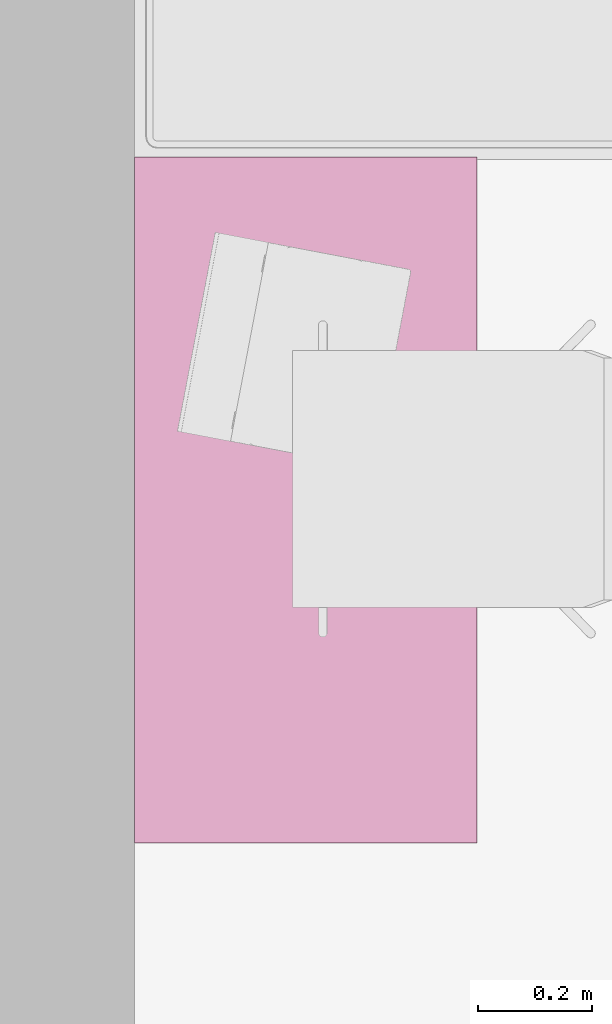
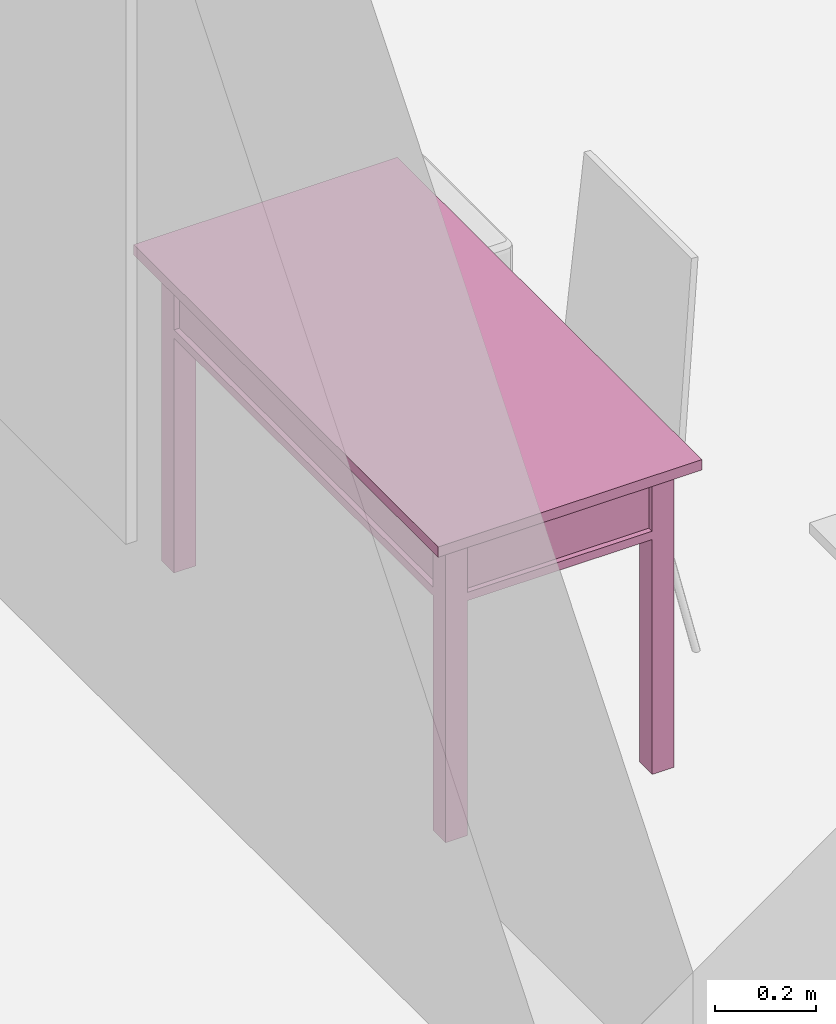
# One storey, part 112 of 165: 1 furnishing.
"""IFC2X3 building model written with IfcOpenShell, lengths in millimetres."""

from ifc_helpers import new_model, entity, si_unit, converted_unit, money_unit, direction, frame, origin_with_axes, place, context, subcontext, project, spatial, faceted_brep, source, transform, mapped, material, material_list, type_object, element, save


model = new_model("IFC2X3")

# Units and contexts
model_context = context("Model", 3, precision=1e-05, world=origin_with_axes(), true_north=direction((0.0, 1.0)))
body_context = subcontext(model_context, "Body", "Model", "MODEL_VIEW")
ifc_project = project(units=[si_unit("LENGTHUNIT", "METRE", prefix="MILLI"), si_unit("AREAUNIT", "SQUARE_METRE"), si_unit("VOLUMEUNIT", "CUBIC_METRE"), converted_unit("PLANEANGLEUNIT", "DEGREE", entity("IfcPlaneAngleMeasure", 0.0174532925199), si_unit("PLANEANGLEUNIT", "RADIAN"), dimensions=[0, 0, 0, 0, 0, 0, 0]), si_unit("SOLIDANGLEUNIT", "STERADIAN"), money_unit("USD"), converted_unit("TIMEUNIT", "Year", entity("IfcTimeMeasure", 31556926.0), si_unit("TIMEUNIT", "SECOND"), dimensions=[0, 0, 0, 0, 0, 0, 0]), si_unit("MASSUNIT", "GRAM"), si_unit("THERMODYNAMICTEMPERATUREUNIT", "DEGREE_CELSIUS"), si_unit("LUMINOUSINTENSITYUNIT", "LUMEN")], contexts=[model_context])

# Site, building, storey
site_placement = place(None, origin_with_axes())
site = spatial("IfcSite", under=ifc_project, at=site_placement, Name="Site", CompositionType="ELEMENT")
building_placement = place(site_placement, origin_with_axes())
building = spatial("IfcBuilding", under=site, at=building_placement, Name="Building", CompositionType="ELEMENT")
storey_placement = place(building_placement, frame((0.0, 0.0, 6300.0), z_axis=(0.0, 0.0, 1.0), x_axis=(1.0, 0.0, 0.0)))
storey = spatial("IfcBuildingStorey", under=building, at=storey_placement, Name="4KORRUS", CompositionType="ELEMENT", Elevation=6300.0)

# Furnishing
ifc_material = material(Name="Background")
ifc_material_list = material_list([ifc_material])
furnishing_element_type = type_object("IfcFurnishingElementType", Name="Rectangular Table 01 19")
shared_shape = source(origin_with_axes(), body_context, "Body", "Brep", [
    faceted_brep([(-90.0, 40.0, 0.0), (-90.0, 90.0, 0.0), (-40.0, 90.0, 0.0), (-40.0, 40.0, 0.0), (-90.0, 40.0, 725.0), (-90.0, 90.0, 725.0), (-40.0, 90.0, 725.0), (-40.0, 40.0, 725.0)], [[[0, 1, 2, 3]], [[0, 4, 5, 1]], [[1, 5, 6, 2]], [[2, 6, 7, 3]], [[3, 7, 4, 0]], [[7, 6, 5, 4]]]),
    faceted_brep([(-1160.0, 40.0, 0.0), (-1160.0, 90.0, 0.0), (-1110.0, 90.0, 0.0), (-1110.0, 40.0, 0.0), (-1160.0, 40.0, 725.0), (-1160.0, 90.0, 725.0), (-1110.0, 90.0, 725.0), (-1110.0, 40.0, 725.0)], [[[0, 1, 2, 3]], [[0, 4, 5, 1]], [[1, 5, 6, 2]], [[2, 6, 7, 3]], [[3, 7, 4, 0]], [[7, 6, 5, 4]]]),
    faceted_brep([(-90.0, 510.0, 0.0), (-90.0, 560.0, 0.0), (-40.0, 560.0, 0.0), (-40.0, 510.0, 0.0), (-90.0, 510.0, 725.0), (-90.0, 560.0, 725.0), (-40.0, 560.0, 725.0), (-40.0, 510.0, 725.0)], [[[0, 1, 2, 3]], [[0, 4, 5, 1]], [[1, 5, 6, 2]], [[2, 6, 7, 3]], [[3, 7, 4, 0]], [[7, 6, 5, 4]]]),
    faceted_brep([(-1160.0, 510.0, 0.0), (-1160.0, 560.0, 0.0), (-1110.0, 560.0, 0.0), (-1110.0, 510.0, 0.0), (-1160.0, 510.0, 725.0), (-1160.0, 560.0, 725.0), (-1110.0, 560.0, 725.0), (-1110.0, 510.0, 725.0)], [[[0, 1, 2, 3]], [[0, 4, 5, 1]], [[1, 5, 6, 2]], [[2, 6, 7, 3]], [[3, 7, 4, 0]], [[7, 6, 5, 4]]]),
    faceted_brep([(-1160.0, 40.0, 565.0), (-1160.0, 560.0, 565.0), (-40.0, 560.0, 565.0), (-40.0, 40.0, 565.0), (-1160.0, 40.0, 585.0), (-1160.0, 560.0, 585.0), (-40.0, 560.0, 585.0), (-40.0, 40.0, 585.0)], [[[0, 1, 2, 3]], [[0, 4, 5, 1]], [[1, 5, 6, 2]], [[2, 6, 7, 3]], [[3, 7, 4, 0]], [[7, 6, 5, 4]]]),
    faceted_brep([(-1110.0, 52.5, 585.0), (-1110.0, 77.5, 585.0), (-90.0, 77.5, 585.0), (-90.0, 52.5, 585.0), (-1110.0, 52.5, 745.0), (-1110.0, 77.5, 745.0), (-90.0, 77.5, 745.0), (-90.0, 52.5, 745.0)], [[[0, 1, 2, 3]], [[0, 4, 5, 1]], [[1, 5, 6, 2]], [[2, 6, 7, 3]], [[3, 7, 4, 0]], [[7, 6, 5, 4]]]),
    faceted_brep([(-77.5, 90.0, 585.0), (-77.5, 510.0, 585.0), (-52.5, 510.0, 585.0), (-52.5, 90.0, 585.0), (-77.5, 90.0, 745.0), (-77.5, 510.0, 745.0), (-52.5, 510.0, 745.0), (-52.5, 90.0, 745.0)], [[[0, 1, 2, 3]], [[0, 4, 5, 1]], [[1, 5, 6, 2]], [[2, 6, 7, 3]], [[3, 7, 4, 0]], [[7, 6, 5, 4]]]),
    faceted_brep([(-90.0, 547.5, 585.0), (-90.0, 522.5, 585.0), (-1110.0, 522.5, 585.0), (-1110.0, 547.5, 585.0), (-90.0, 547.5, 745.0), (-90.0, 522.5, 745.0), (-1110.0, 522.5, 745.0), (-1110.0, 547.5, 745.0)], [[[0, 1, 2, 3]], [[0, 4, 5, 1]], [[1, 5, 6, 2]], [[2, 6, 7, 3]], [[3, 7, 4, 0]], [[7, 6, 5, 4]]]),
    faceted_brep([(-1122.5, 510.0, 585.0), (-1122.5, 90.0, 585.0), (-1147.5, 90.0, 585.0), (-1147.5, 510.0, 585.0), (-1122.5, 510.0, 745.0), (-1122.5, 90.0, 745.0), (-1147.5, 90.0, 745.0), (-1147.5, 510.0, 745.0)], [[[0, 1, 2, 3]], [[0, 4, 5, 1]], [[1, 5, 6, 2]], [[2, 6, 7, 3]], [[3, 7, 4, 0]], [[7, 6, 5, 4]]]),
    faceted_brep([(-597.5, 40.0, 585.0), (-597.5, 60.0, 585.0), (-95.0, 60.0, 585.0), (-95.0, 40.0, 585.0), (-597.5, 40.0, 745.0), (-597.5, 60.0, 745.0), (-95.0, 60.0, 745.0), (-95.0, 40.0, 745.0)], [[[0, 1, 2, 3]], [[0, 4, 5, 1]], [[1, 5, 6, 2]], [[2, 6, 7, 3]], [[3, 7, 4, 0]], [[7, 6, 5, 4]]]),
    faceted_brep([(-1105.0, 40.0, 585.0), (-1105.0, 60.0, 585.0), (-602.5, 60.0, 585.0), (-602.5, 40.0, 585.0), (-1105.0, 40.0, 745.0), (-1105.0, 60.0, 745.0), (-602.5, 60.0, 745.0), (-602.5, 40.0, 745.0)], [[[0, 1, 2, 3]], [[0, 4, 5, 1]], [[1, 5, 6, 2]], [[2, 6, 7, 3]], [[3, 7, 4, 0]], [[7, 6, 5, 4]]]),
    faceted_brep([(-354.91, 40.0, 660.0), (-356.25, 40.0, 665.0), (-354.91, 40.0, 670.0), (-351.25, 40.0, 673.66), (-346.25, 40.0, 675.0), (-341.25, 40.0, 673.66), (-337.59, 40.0, 670.0), (-336.25, 40.0, 665.0), (-337.59, 40.0, 660.0), (-341.25, 40.0, 656.34), (-346.25, 40.0, 655.0), (-351.25, 40.0, 656.34), (-354.91, 25.0, 660.0), (-356.25, 25.0, 665.0), (-354.91, 25.0, 670.0), (-351.25, 25.0, 673.66), (-346.25, 25.0, 675.0), (-341.25, 25.0, 673.66), (-337.59, 25.0, 670.0), (-336.25, 25.0, 665.0), (-337.59, 25.0, 660.0), (-341.25, 25.0, 656.34), (-346.25, 25.0, 655.0), (-351.25, 25.0, 656.34)], [[[0, 1, 2, 3, 4, 5, 6, 7, 8, 9, 10, 11]], [[0, 12, 13, 1]], [[1, 13, 14, 2]], [[2, 14, 15, 3]], [[3, 15, 16, 4]], [[4, 16, 17, 5]], [[5, 17, 18, 6]], [[6, 18, 19, 7]], [[7, 19, 20, 8]], [[8, 20, 21, 9]], [[9, 21, 22, 10]], [[10, 22, 23, 11]], [[11, 23, 12, 0]], [[12, 23, 22, 21, 20, 19, 18, 17, 16, 15, 14, 13]]]),
    faceted_brep([(-356.25, 12.01, 665.0), (-354.91, 12.01, 660.0), (-346.25, 10.0, 665.0), (-363.571, 17.5, 665.0), (-361.25, 17.5, 656.34), (-351.25, 12.01, 656.34), (-354.91, 12.01, 670.0), (-366.25, 25.0, 665.0), (-363.571, 25.0, 655.0), (-354.91, 17.5, 650.0), (-361.25, 17.5, 673.66), (-346.25, 12.01, 655.0), (-351.25, 12.01, 673.66), (-363.571, 25.0, 675.0), (-356.25, 25.0, 682.321), (-346.25, 25.0, 685.0), (-336.25, 25.0, 682.321), (-328.929, 25.0, 675.0), (-326.25, 25.0, 665.0), (-328.929, 25.0, 655.0), (-336.25, 25.0, 647.679), (-346.25, 25.0, 645.0), (-356.25, 25.0, 647.679), (-346.25, 17.5, 647.679), (-354.91, 17.5, 680.0), (-341.25, 12.01, 656.34), (-346.25, 12.01, 675.0), (-346.25, 17.5, 682.321), (-337.59, 17.5, 680.0), (-331.25, 17.5, 673.66), (-328.929, 17.5, 665.0), (-331.25, 17.5, 656.34), (-337.59, 17.5, 650.0), (-337.59, 12.01, 660.0), (-341.25, 12.01, 673.66), (-337.59, 12.01, 670.0), (-336.25, 12.01, 665.0)], [[[0, 1, 2]], [[3, 4, 1, 0]], [[1, 5, 2]], [[6, 0, 2]], [[7, 8, 4, 3]], [[4, 9, 5, 1]], [[10, 3, 0, 6]], [[5, 11, 2]], [[12, 6, 2]], [[8, 7, 13, 14, 15, 16, 17, 18, 19, 20, 21, 22]], [[8, 22, 9, 4]], [[13, 7, 3, 10]], [[9, 23, 11, 5]], [[24, 10, 6, 12]], [[11, 25, 2]], [[26, 12, 2]], [[14, 13, 10, 24]], [[15, 14, 24, 27]], [[16, 15, 27, 28]], [[17, 16, 28, 29]], [[18, 17, 29, 30]], [[19, 18, 30, 31]], [[20, 19, 31, 32]], [[21, 20, 32, 23]], [[22, 21, 23, 9]], [[23, 32, 25, 11]], [[27, 24, 12, 26]], [[25, 33, 2]], [[34, 26, 2]], [[28, 27, 26, 34]], [[29, 28, 34, 35]], [[30, 29, 35, 36]], [[31, 30, 36, 33]], [[32, 31, 33, 25]], [[33, 36, 2]], [[35, 34, 2]], [[36, 35, 2]]]),
    faceted_brep([(-862.41, 40.0, 660.0), (-863.75, 40.0, 665.0), (-862.41, 40.0, 670.0), (-858.75, 40.0, 673.66), (-853.75, 40.0, 675.0), (-848.75, 40.0, 673.66), (-845.09, 40.0, 670.0), (-843.75, 40.0, 665.0), (-845.09, 40.0, 660.0), (-848.75, 40.0, 656.34), (-853.75, 40.0, 655.0), (-858.75, 40.0, 656.34), (-862.41, 25.0, 660.0), (-863.75, 25.0, 665.0), (-862.41, 25.0, 670.0), (-858.75, 25.0, 673.66), (-853.75, 25.0, 675.0), (-848.75, 25.0, 673.66), (-845.09, 25.0, 670.0), (-843.75, 25.0, 665.0), (-845.09, 25.0, 660.0), (-848.75, 25.0, 656.34), (-853.75, 25.0, 655.0), (-858.75, 25.0, 656.34)], [[[0, 1, 2, 3, 4, 5, 6, 7, 8, 9, 10, 11]], [[0, 12, 13, 1]], [[1, 13, 14, 2]], [[2, 14, 15, 3]], [[3, 15, 16, 4]], [[4, 16, 17, 5]], [[5, 17, 18, 6]], [[6, 18, 19, 7]], [[7, 19, 20, 8]], [[8, 20, 21, 9]], [[9, 21, 22, 10]], [[10, 22, 23, 11]], [[11, 23, 12, 0]], [[12, 23, 22, 21, 20, 19, 18, 17, 16, 15, 14, 13]]]),
    faceted_brep([(-863.75, 12.01, 665.0), (-862.41, 12.01, 660.0), (-853.75, 10.0, 665.0), (-871.071, 17.5, 665.0), (-868.75, 17.5, 656.34), (-858.75, 12.01, 656.34), (-862.41, 12.01, 670.0), (-873.75, 25.0, 665.0), (-871.071, 25.0, 655.0), (-862.41, 17.5, 650.0), (-868.75, 17.5, 673.66), (-853.75, 12.01, 655.0), (-858.75, 12.01, 673.66), (-871.071, 25.0, 675.0), (-863.75, 25.0, 682.321), (-853.75, 25.0, 685.0), (-843.75, 25.0, 682.321), (-836.429, 25.0, 675.0), (-833.75, 25.0, 665.0), (-836.429, 25.0, 655.0), (-843.75, 25.0, 647.679), (-853.75, 25.0, 645.0), (-863.75, 25.0, 647.679), (-853.75, 17.5, 647.679), (-862.41, 17.5, 680.0), (-848.75, 12.01, 656.34), (-853.75, 12.01, 675.0), (-853.75, 17.5, 682.321), (-845.09, 17.5, 680.0), (-838.75, 17.5, 673.66), (-836.429, 17.5, 665.0), (-838.75, 17.5, 656.34), (-845.09, 17.5, 650.0), (-845.09, 12.01, 660.0), (-848.75, 12.01, 673.66), (-845.09, 12.01, 670.0), (-843.75, 12.01, 665.0)], [[[0, 1, 2]], [[3, 4, 1, 0]], [[1, 5, 2]], [[6, 0, 2]], [[7, 8, 4, 3]], [[4, 9, 5, 1]], [[10, 3, 0, 6]], [[5, 11, 2]], [[12, 6, 2]], [[8, 7, 13, 14, 15, 16, 17, 18, 19, 20, 21, 22]], [[8, 22, 9, 4]], [[13, 7, 3, 10]], [[9, 23, 11, 5]], [[24, 10, 6, 12]], [[11, 25, 2]], [[26, 12, 2]], [[14, 13, 10, 24]], [[15, 14, 24, 27]], [[16, 15, 27, 28]], [[17, 16, 28, 29]], [[18, 17, 29, 30]], [[19, 18, 30, 31]], [[20, 19, 31, 32]], [[21, 20, 32, 23]], [[22, 21, 23, 9]], [[23, 32, 25, 11]], [[27, 24, 12, 26]], [[25, 33, 2]], [[34, 26, 2]], [[28, 27, 26, 34]], [[29, 28, 34, 35]], [[30, 29, 35, 36]], [[31, 30, 36, 33]], [[32, 31, 33, 25]], [[33, 36, 2]], [[35, 34, 2]], [[36, 35, 2]]]),
    faceted_brep([(-1200.0, 0.0, 725.0), (-1200.0, 600.0, 725.0), (0.0, 600.0, 725.0), (0.0, 0.0, 725.0), (-1200.0, 0.0, 750.0), (-1200.0, 600.0, 750.0), (0.0, 600.0, 750.0), (0.0, 0.0, 750.0)], [[[0, 1, 2, 3]], [[0, 4, 5, 1]], [[1, 5, 6, 2]], [[2, 6, 7, 3]], [[3, 7, 4, 0]], [[7, 6, 5, 4]]]),
])
furnishing_placement = place(storey_placement, frame((-5390.29670331, -17434.8573505, 0.0), z_axis=(0.0, 0.0, 1.0), x_axis=(0.0, 1.0, 0.0)))
element("IfcFurnishingElement", 1, at=furnishing_placement, inside=storey, type_object=furnishing_element_type, material=ifc_material_list, Name="FU - 011", context=body_context, shape_type="MappedRepresentation", body=[
    mapped(shared_shape, transform((0.0, 0.0, 0.0))),
])

save(model, "model.ifc")
